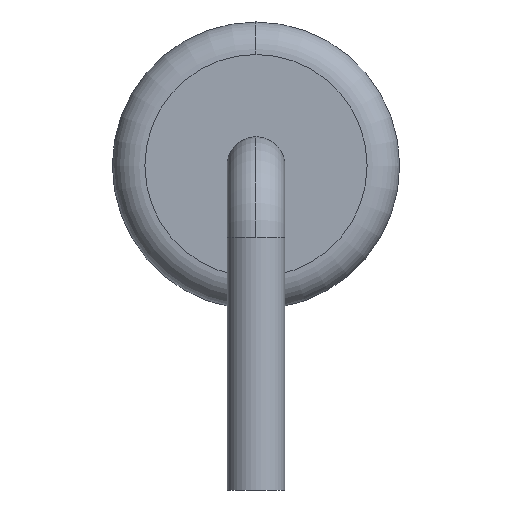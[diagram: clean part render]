
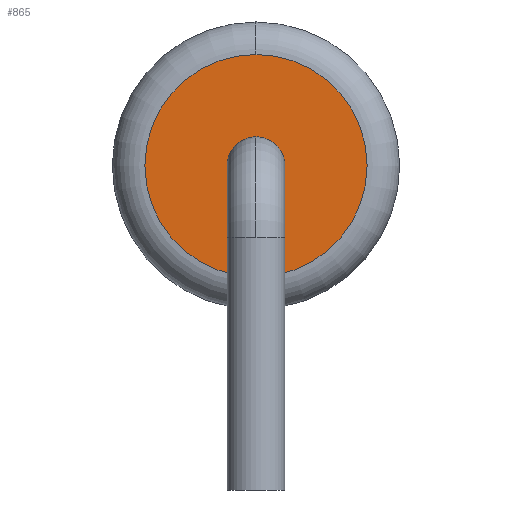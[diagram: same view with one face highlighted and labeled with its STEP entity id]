
A CAD part, left-side view. The second image highlights one B-rep face of the part: STEP entity #865.
In plain terms, the highlighted planar face has unit normal (-1, 0, 0).
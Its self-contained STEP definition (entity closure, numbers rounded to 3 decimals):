
#684 = CARTESIAN_POINT ( 'NONE',  ( -3.495, 0., 0.36 ) ) ;
#685 = VERTEX_POINT ( 'NONE', #684 ) ;
#686 = CARTESIAN_POINT ( 'NONE',  ( -3.495, 0., 2.82 ) ) ;
#687 = VERTEX_POINT ( 'NONE', #686 ) ;
#688 = CARTESIAN_POINT ( 'NONE',  ( -3.495, 0., 1.59 ) ) ;
#689 = DIRECTION ( 'NONE',  ( -1., 0., 0. ) ) ;
#690 = DIRECTION ( 'NONE',  ( 0., 0., 1. ) ) ;
#691 = AXIS2_PLACEMENT_3D ( 'NONE', #688, #689, #690 ) ;
#692 = CIRCLE ( 'NONE', #691, 1.23) ;
#693 = EDGE_CURVE ( 'NONE', #685, #687, #692, .T. ) ;
#850 = CARTESIAN_POINT ( 'NONE',  ( -3.495, 0., 1.59 ) ) ;
#851 = DIRECTION ( 'NONE',  ( -1., 0., 0. ) ) ;
#852 = DIRECTION ( 'NONE',  ( 0., 0., 1. ) ) ;
#853 = AXIS2_PLACEMENT_3D ( 'NONE', #850, #851, #852 ) ;
#854 = CIRCLE ( 'NONE', #853, 1.23) ;
#855 = EDGE_CURVE ( 'NONE', #687, #685, #854, .T. ) ;
#856 = ORIENTED_EDGE ( 'NONE', *, *, #855, .T. ) ;
#857 = ORIENTED_EDGE ( 'NONE', *, *, #693, .T. ) ;
#858 = EDGE_LOOP ( 'NONE', ( #856, #857 ) ) ;
#859 = FACE_OUTER_BOUND ( 'NONE', #858, .T. ) ;
#860 = CARTESIAN_POINT ( 'NONE',  ( -3.495, 0., 3.18 ) ) ;
#861 = DIRECTION ( 'NONE',  ( 1., 0., 0. ) ) ;
#862 = DIRECTION ( 'NONE',  ( 0., 0., 1. ) ) ;
#863 = AXIS2_PLACEMENT_3D ( 'NONE', #860, #861, #862 ) ;
#864 = PLANE ( 'NONE', #863 ) ;
#865 = ADVANCED_FACE ( 'NONE', ( #859 ), #864, .F. ) ;
